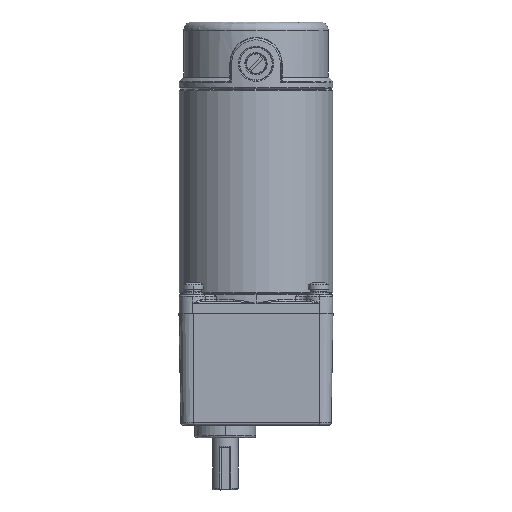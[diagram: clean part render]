
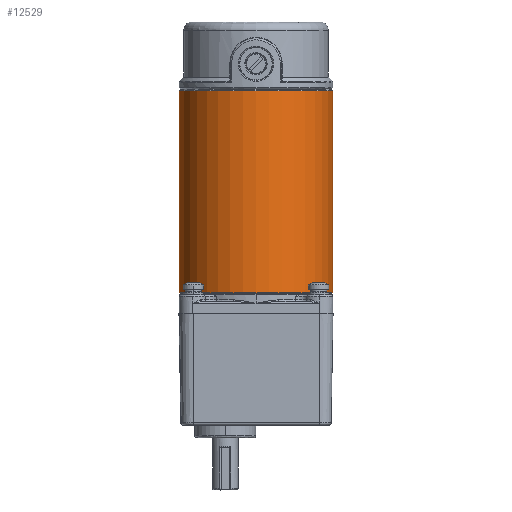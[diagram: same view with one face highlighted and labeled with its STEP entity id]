
A CAD part, left-side view. The second image highlights one B-rep face of the part: STEP entity #12529.
In plain terms, the highlighted cylindrical face has radius 45 mm (diameter 90 mm), a partial arc.
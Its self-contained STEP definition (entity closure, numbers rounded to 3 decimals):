
#1288 = EDGE_CURVE ( 'NONE', #22164, #2150, #28862, .T. ) ;
#1314 = CARTESIAN_POINT ( 'NONE',  ( -7.759, 0.828, 45. ) ) ;
#2150 = VERTEX_POINT ( 'NONE', #26817 ) ;
#2172 = DIRECTION ( 'NONE',  ( 0., 0., 1. ) ) ;
#3909 = AXIS2_PLACEMENT_3D ( 'NONE', #18858, #14548, #10133 ) ;
#4504 = DIRECTION ( 'NONE',  ( 0., 1., 0. ) ) ;
#4936 = VECTOR ( 'NONE', #24142, 1000. ) ;
#5606 = EDGE_CURVE ( 'NONE', #16752, #2150, #16654, .T. ) ;
#6637 = CARTESIAN_POINT ( 'NONE',  ( -7.759, 0., 45. ) ) ;
#7003 = EDGE_CURVE ( 'NONE', #22515, #16752, #15153, .T. ) ;
#9874 = CARTESIAN_POINT ( 'NONE',  ( -7.759, 119.172, 0. ) ) ;
#10133 = DIRECTION ( 'NONE',  ( 0., 0., 1. ) ) ;
#10998 = CARTESIAN_POINT ( 'NONE',  ( -7.759, 0.828, -45. ) ) ;
#11939 = CIRCLE ( 'NONE', #3909, 45. ) ;
#12203 = DIRECTION ( 'NONE',  ( 0., 0., 1. ) ) ;
#12529 = ADVANCED_FACE ( 'NONE', ( #13385 ), #17983, .T. ) ;
#13385 = FACE_OUTER_BOUND ( 'NONE', #15696, .T. ) ;
#14548 = DIRECTION ( 'NONE',  ( 0., 1., 0. ) ) ;
#15153 = LINE ( 'NONE', #6637, #4936 ) ;
#15696 = EDGE_LOOP ( 'NONE', ( #23912, #19636, #16904, #28884 ) ) ;
#16434 = VECTOR ( 'NONE', #4504, 1000. ) ;
#16654 = CIRCLE ( 'NONE', #28451, 45. ) ;
#16752 = VERTEX_POINT ( 'NONE', #18401 ) ;
#16904 = ORIENTED_EDGE ( 'NONE', *, *, #7003, .T. ) ;
#17924 = CARTESIAN_POINT ( 'NONE',  ( -7.759, 0., -45. ) ) ;
#17983 = CYLINDRICAL_SURFACE ( 'NONE', #26671, 45. ) ;
#18401 = CARTESIAN_POINT ( 'NONE',  ( -7.759, 119.172, 45. ) ) ;
#18858 = CARTESIAN_POINT ( 'NONE',  ( -7.759, 0.828, 0. ) ) ;
#19636 = ORIENTED_EDGE ( 'NONE', *, *, #27684, .T. ) ;
#22164 = VERTEX_POINT ( 'NONE', #10998 ) ;
#22515 = VERTEX_POINT ( 'NONE', #1314 ) ;
#23912 = ORIENTED_EDGE ( 'NONE', *, *, #1288, .F. ) ;
#24042 = CARTESIAN_POINT ( 'NONE',  ( -7.759, 0., 0. ) ) ;
#24142 = DIRECTION ( 'NONE',  ( 0., 1., 0. ) ) ;
#25636 = DIRECTION ( 'NONE',  ( 0., -1., 0. ) ) ;
#26671 = AXIS2_PLACEMENT_3D ( 'NONE', #24042, #26990, #2172 ) ;
#26817 = CARTESIAN_POINT ( 'NONE',  ( -7.759, 119.172, -45. ) ) ;
#26990 = DIRECTION ( 'NONE',  ( 0., 1., 0. ) ) ;
#27684 = EDGE_CURVE ( 'NONE', #22164, #22515, #11939, .T. ) ;
#28451 = AXIS2_PLACEMENT_3D ( 'NONE', #9874, #25636, #12203 ) ;
#28862 = LINE ( 'NONE', #17924, #16434 ) ;
#28884 = ORIENTED_EDGE ( 'NONE', *, *, #5606, .T. ) ;
